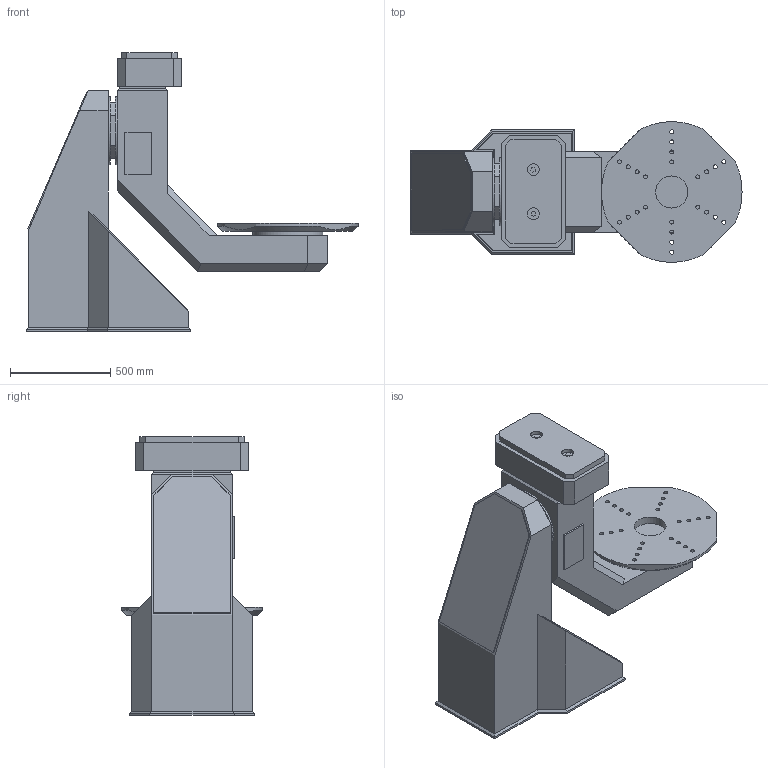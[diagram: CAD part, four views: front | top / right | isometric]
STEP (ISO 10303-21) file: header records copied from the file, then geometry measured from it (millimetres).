
FILE_DESCRIPTION(('HOOPS Exchange Step'),'2;1');
FILE_NAME('C:\Users\JG09537\Desktop\Positioner.step','2026-01-29T10:40:18+09:00',('JG09537'),('Unknown organisation'),'HOOPS Exchange 2024.6','HOOPS Exchange','Unknown authorisation');
FILE_SCHEMA( ('AP242_MANAGED_MODEL_BASED_3D_ENGINEERING_MIM_LF {1 0 10303 442 1 1 4 }') );
Length unit declared in the file: millimetre
Products named in the file (3): GeoContainer; Positioner; 0
Assembly tree (2 placements, depth 3):
  0
    Positioner
      GeoContainer
Bounding box: 1655 x 700 x 1390 mm (x, y, z)
Surface area: 8579229.7 mm2 (no closed solid volume)
Topology: 0 solids, 12 shells, 172 faces, 0 edges, 0 vertices
Faces by surface type: other 172
Entity records: 304 total; most frequent: TRIANGULATED_FACE 172, DIRECTION 14, COORDINATES_LIST 12, TESSELLATED_SHELL 12, STYLED_ITEM 12, CARTESIAN_POINT 7, AXIS2_PLACEMENT_3D 7, PRODUCT_DEFINITION_SHAPE 5
